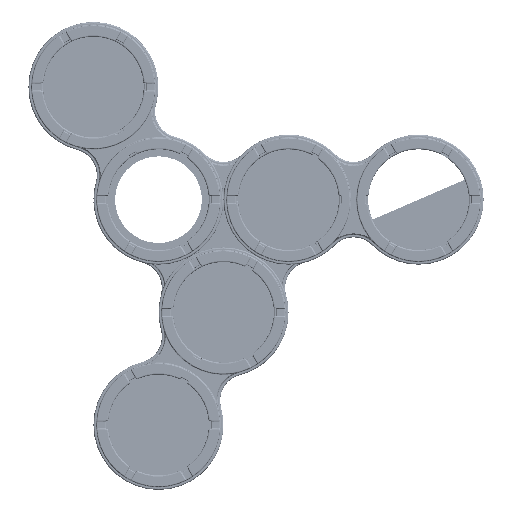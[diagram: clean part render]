
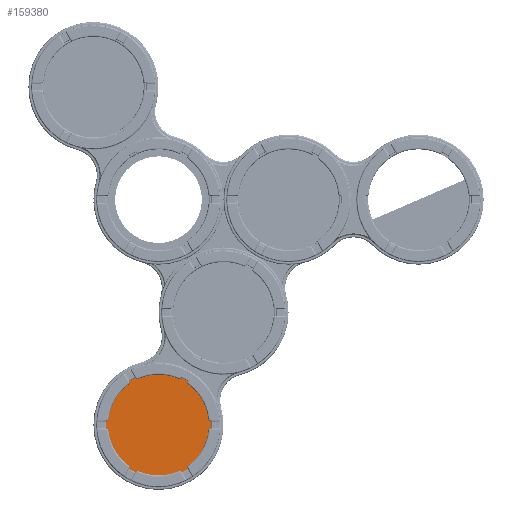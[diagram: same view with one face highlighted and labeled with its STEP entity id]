
A CAD part, front view. The second image highlights one B-rep face of the part: STEP entity #159380.
In plain terms, the highlighted planar face has unit normal (0, -1, 0) as drawn and (0, 1, 0) by its records, which use the part's own axes.
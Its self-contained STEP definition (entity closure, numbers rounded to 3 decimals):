
#12857 = AXIS2_PLACEMENT_3D ( 'NONE', #310727, #78686, #44957 ) ;
#14687 = VERTEX_POINT ( 'NONE', #238506 ) ;
#17637 = DIRECTION ( 'NONE',  ( 0., 1., 0. ) ) ;
#20660 = ORIENTED_EDGE ( 'NONE', *, *, #273111, .F. ) ;
#23527 = CARTESIAN_POINT ( 'NONE',  ( 194., 10., 336.018 ) ) ;
#24984 = ORIENTED_EDGE ( 'NONE', *, *, #84129, .F. ) ;
#27952 = DIRECTION ( 'NONE',  ( 0., 0., 1. ) ) ;
#36713 = DIRECTION ( 'NONE',  ( 0., 1., 0. ) ) ;
#38036 = FACE_OUTER_BOUND ( 'NONE', #304445, .T. ) ;
#44957 = DIRECTION ( 'NONE',  ( 0., 0., 1. ) ) ;
#55198 = VERTEX_POINT ( 'NONE', #176456 ) ;
#63483 = EDGE_LOOP ( 'NONE', ( #287134, #24984 ) ) ;
#65442 = CARTESIAN_POINT ( 'NONE',  ( -388., 10., 0. ) ) ;
#67801 = AXIS2_PLACEMENT_3D ( 'NONE', #98786, #17637, #200437 ) ;
#78686 = DIRECTION ( 'NONE',  ( 0., 1., 0. ) ) ;
#84129 = EDGE_CURVE ( 'NONE', #121557, #125643, #283068, .T. ) ;
#95224 = AXIS2_PLACEMENT_3D ( 'NONE', #23527, #231803, #308015 ) ;
#95525 = CARTESIAN_POINT ( 'NONE',  ( 194., 10., 333.518 ) ) ;
#98786 = CARTESIAN_POINT ( 'NONE',  ( 0., 10., 0. ) ) ;
#106991 = EDGE_CURVE ( 'NONE', #14687, #116398, #305898, .T. ) ;
#108822 = CIRCLE ( 'NONE', #325239, 11.5 ) ;
#113147 = DIRECTION ( 'NONE',  ( 0., 1., 0. ) ) ;
#115873 = DIRECTION ( 'NONE',  ( 0., 0., 1. ) ) ;
#116398 = VERTEX_POINT ( 'NONE', #210199 ) ;
#121557 = VERTEX_POINT ( 'NONE', #287601 ) ;
#122137 = ORIENTED_EDGE ( 'NONE', *, *, #316699, .F. ) ;
#122144 = DIRECTION ( 'NONE',  ( 0., 1., 0. ) ) ;
#125584 = EDGE_LOOP ( 'NONE', ( #20660, #180746 ) ) ;
#125643 = VERTEX_POINT ( 'NONE', #95525 ) ;
#131589 = CARTESIAN_POINT ( 'NONE',  ( 0., 10., 428.5 ) ) ;
#132289 = CARTESIAN_POINT ( 'NONE',  ( 0., 10., 0. ) ) ;
#136274 = CARTESIAN_POINT ( 'NONE',  ( 0., 10., 0. ) ) ;
#141291 = DIRECTION ( 'NONE',  ( 0., 1., 0. ) ) ;
#141341 = FACE_BOUND ( 'NONE', #63483, .T. ) ;
#143719 = AXIS2_PLACEMENT_3D ( 'NONE', #241869, #113147, #216421 ) ;
#143971 = AXIS2_PLACEMENT_3D ( 'NONE', #177949, #122144, #305013 ) ;
#159380 = ADVANCED_FACE ( 'NONE', ( #38036, #141341, #244651, #300442 ), #229216, .T. ) ;
#162685 = CIRCLE ( 'NONE', #222169, 428.5 ) ;
#164225 = AXIS2_PLACEMENT_3D ( 'NONE', #136274, #141291, #115873 ) ;
#176456 = CARTESIAN_POINT ( 'NONE',  ( -388., 10., 11.5 ) ) ;
#177949 = CARTESIAN_POINT ( 'NONE',  ( 194., 10., -336.018 ) ) ;
#180746 = ORIENTED_EDGE ( 'NONE', *, *, #206963, .F. ) ;
#185379 = EDGE_CURVE ( 'NONE', #298715, #255292, #266989, .T. ) ;
#198101 = CIRCLE ( 'NONE', #143971, 2.5 ) ;
#200437 = DIRECTION ( 'NONE',  ( 0., 0., 1. ) ) ;
#206963 = EDGE_CURVE ( 'NONE', #55198, #305760, #108822, .T. ) ;
#207438 = DIRECTION ( 'NONE',  ( 0., 1., 0. ) ) ;
#210199 = CARTESIAN_POINT ( 'NONE',  ( 194., 10., -338.518 ) ) ;
#212425 = CARTESIAN_POINT ( 'NONE',  ( -388., 10., 0. ) ) ;
#216421 = DIRECTION ( 'NONE',  ( 0., 0., 1. ) ) ;
#219187 = EDGE_CURVE ( 'NONE', #125643, #121557, #241295, .T. ) ;
#222169 = AXIS2_PLACEMENT_3D ( 'NONE', #132289, #286394, #279730 ) ;
#229216 = PLANE ( 'NONE',  #67801 ) ;
#231803 = DIRECTION ( 'NONE',  ( 0., 1., 0. ) ) ;
#238506 = CARTESIAN_POINT ( 'NONE',  ( 194., 10., -333.518 ) ) ;
#241295 = CIRCLE ( 'NONE', #95224, 2.5 ) ;
#241869 = CARTESIAN_POINT ( 'NONE',  ( 194., 10., -336.018 ) ) ;
#244651 = FACE_BOUND ( 'NONE', #331937, .T. ) ;
#248072 = CARTESIAN_POINT ( 'NONE',  ( 0., 10., -428.5 ) ) ;
#255292 = VERTEX_POINT ( 'NONE', #248072 ) ;
#258929 = AXIS2_PLACEMENT_3D ( 'NONE', #65442, #36713, #273674 ) ;
#261231 = ORIENTED_EDGE ( 'NONE', *, *, #185379, .T. ) ;
#264000 = ORIENTED_EDGE ( 'NONE', *, *, #296029, .T. ) ;
#266989 = CIRCLE ( 'NONE', #164225, 428.5 ) ;
#273111 = EDGE_CURVE ( 'NONE', #305760, #55198, #275069, .T. ) ;
#273674 = DIRECTION ( 'NONE',  ( 0., 0., 1. ) ) ;
#275069 = CIRCLE ( 'NONE', #258929, 11.5 ) ;
#279730 = DIRECTION ( 'NONE',  ( 0., 0., 1. ) ) ;
#283068 = CIRCLE ( 'NONE', #12857, 2.5 ) ;
#286394 = DIRECTION ( 'NONE',  ( 0., 1., 0. ) ) ;
#287134 = ORIENTED_EDGE ( 'NONE', *, *, #219187, .F. ) ;
#287601 = CARTESIAN_POINT ( 'NONE',  ( 194., 10., 338.518 ) ) ;
#296029 = EDGE_CURVE ( 'NONE', #255292, #298715, #162685, .T. ) ;
#298715 = VERTEX_POINT ( 'NONE', #131589 ) ;
#300442 = FACE_BOUND ( 'NONE', #125584, .T. ) ;
#304445 = EDGE_LOOP ( 'NONE', ( #261231, #264000 ) ) ;
#305013 = DIRECTION ( 'NONE',  ( 0., 0., 1. ) ) ;
#305760 = VERTEX_POINT ( 'NONE', #318521 ) ;
#305898 = CIRCLE ( 'NONE', #143719, 2.5 ) ;
#308015 = DIRECTION ( 'NONE',  ( 0., 0., 1. ) ) ;
#310727 = CARTESIAN_POINT ( 'NONE',  ( 194., 10., 336.018 ) ) ;
#316699 = EDGE_CURVE ( 'NONE', #116398, #14687, #198101, .T. ) ;
#318521 = CARTESIAN_POINT ( 'NONE',  ( -388., 10., -11.5 ) ) ;
#325239 = AXIS2_PLACEMENT_3D ( 'NONE', #212425, #207438, #27952 ) ;
#331199 = ORIENTED_EDGE ( 'NONE', *, *, #106991, .F. ) ;
#331937 = EDGE_LOOP ( 'NONE', ( #122137, #331199 ) ) ;
